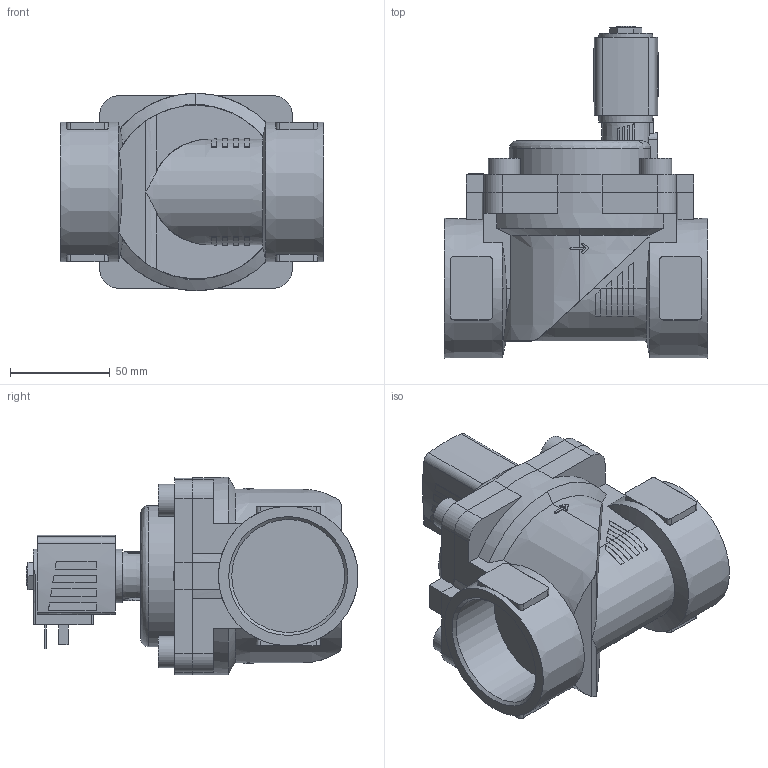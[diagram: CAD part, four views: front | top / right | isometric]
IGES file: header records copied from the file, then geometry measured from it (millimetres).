
Start section: Data from Parasolid IGES Translator 26.0.171, Copyright(c) 2006 Siemens PLM Software. All Rights Reserved.
Global section: file name: 6281-291519-2_2-Way_Solenoid_Valve__Servo-assisted__General_Purpose.igs; native system: By Siemens PLM Incorporated; preprocessor: XPlus GENERIC/IGES 26.0.171; author: Noname; organization: Noname; date: 20240904.113421; units: millimetre
Bounding box: 132 x 166.5 x 99 mm (x, y, z)
Surface area: 102545.4 mm2 (no closed solid volume)
Topology: 0 solids, 0 shells, 364 faces, 1920 edges, 1902 vertices
Faces by surface type: extrusion 237, revolution 127
